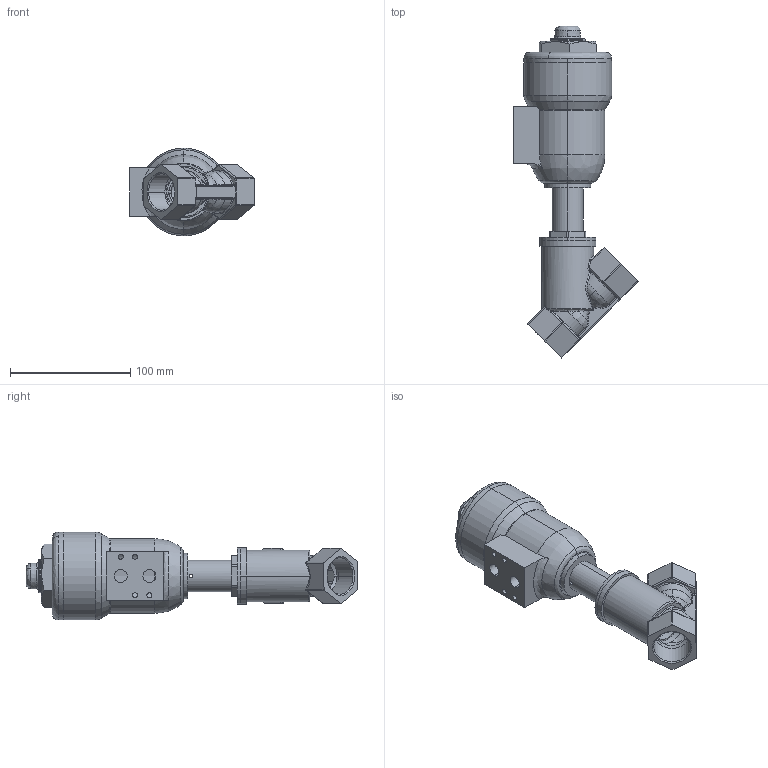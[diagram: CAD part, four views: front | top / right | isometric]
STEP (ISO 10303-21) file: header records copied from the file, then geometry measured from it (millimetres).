
FILE_DESCRIPTION (( 'STEP AP203' ), '1' );
FILE_NAME ('PCIPFM_025_1_1.STEP', '2017-07-25T15:35:02', ( 'user' ), ( '' ), 'SwSTEP 2.0', 'SolidWorks 2013', '' );
FILE_SCHEMA (( 'CONFIG_CONTROL_DESIGN' ));
Length unit declared in the file: millimetre
Products named in the file (1): PCIPFM_025_1_1
Bounding box: 103.78 x 276.42 x 73 mm (x, y, z)
Surface area: 72290.4 mm2 (no closed solid volume)
Topology: 0 solids, 7 shells, 315 faces, 831 edges, 496 vertices
Faces by surface type: bspline 117, cylinder 103, plane 73, cone 22
Entity records: 16479 total; most frequent: CARTESIAN_POINT 9650, ORIENTED_EDGE 1498, DIRECTION 1236, EDGE_CURVE 803, VERTEX_POINT 496, AXIS2_PLACEMENT_3D 494, EDGE_LOOP 338, ADVANCED_FACE 315
